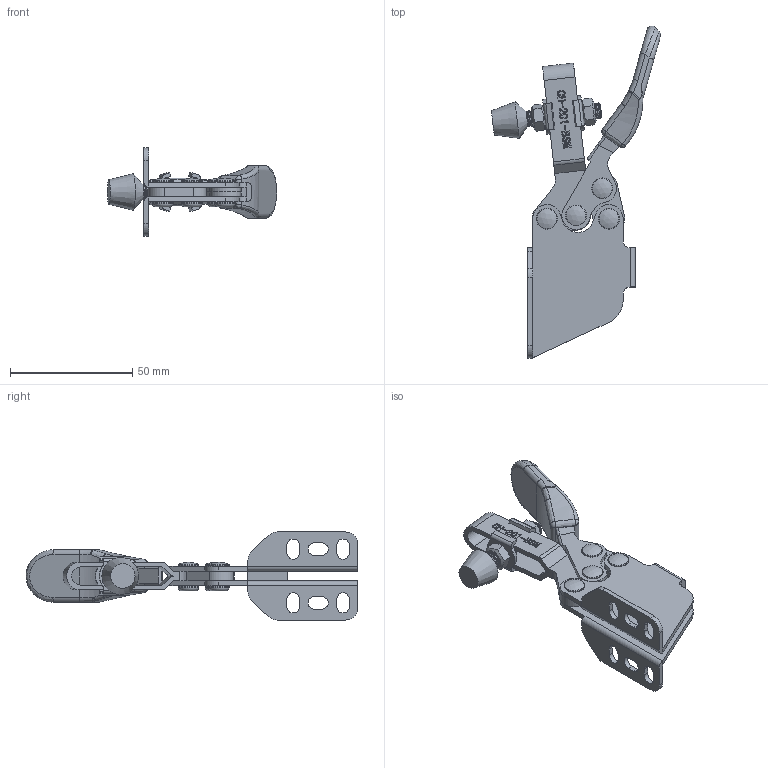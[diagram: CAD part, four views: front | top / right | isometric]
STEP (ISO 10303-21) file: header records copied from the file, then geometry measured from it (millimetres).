
FILE_DESCRIPTION(/* description */ ('STEP AP203'),/* implementation_level */ '2;1');
FILE_NAME(/* name */ 'E:\STRONA\Horizontal toggle clamp\CH-201-BSM\CH-201-BSM_OTWARTY.stp',/* time_stamp */ '2019-01-15T12:55:11+01:00',/* author */ ('Admin'),/* organization */ ('·L?¤¤?'),/* preprocessor_version */ 'ST-DEVELOPER v17.2',/* originating_system */ 'Autodesk Inventor 2019',/* authorisation */ '');
FILE_SCHEMA (('AUTOMOTIVE_DESIGN { 1 0 10303 214 3 1 1 }'));
Products named in the file (11): CH-201-BSM_OTWARTY; 201-B___; 201-B-05___; 201-B-03___; 14134-02___; 14134___; CH-201-BSM-01___; 201-B-04___; FW140___; CH-201-BSM-02___; 201-B-06___
Assembly tree (16 placements, depth 3):
  CH-201-BSM_OTWARTY
    14134-02___  x2
    201-B-06___  x4
    201-B-04___  x2
    201-B___
      201-B-05___
      201-B-03___
    14134___
    CH-201-BSM-01___
    FW140___  x2
    CH-201-BSM-02___
Bounding box: 69.13 x 135.71 x 36 mm (x, y, z)
Volume: 27005.6 mm3; surface area: 30081 mm2
Topology: 15 solids, 17 shells, 747 faces, 2061 edges, 1379 vertices
Faces by surface type: plane 325, bspline 215, cylinder 166, cone 18, torus 18, sphere 5
Full cylindrical faces by diameter (mm): 1.7 x1, 2.4 x1, 3.494 x4, 4.7 x4, 4.78 x6, 4.8 x8, 5.1 x6, 6.3 x2, 6.4 x26, 8.5 x8
Entity records: 51669 total; most frequent: CARTESIAN_POINT 35611, ORIENTED_EDGE 3664, DIRECTION 2547, EDGE_CURVE 1832, VERTEX_POINT 1220, LINE 1009, VECTOR 1009, AXIS2_PLACEMENT_3D 769
